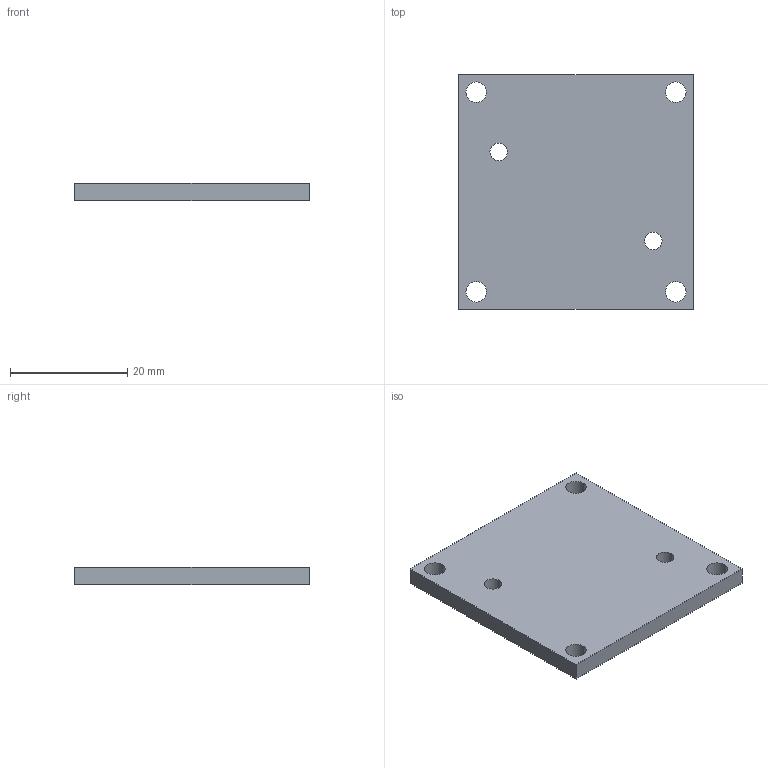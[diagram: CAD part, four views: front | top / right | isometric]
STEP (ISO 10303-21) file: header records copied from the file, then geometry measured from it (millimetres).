
FILE_DESCRIPTION (( 'STEP AP214' ), '1' );
FILE_NAME ('掙埭_掙埭假蚾啣_V1.STEP', '2026-06-19T14:44:51', ( '' ), ( '' ), 'SwSTEP 2.0', 'SolidWorks 2022', '' );
FILE_SCHEMA (( 'AUTOMOTIVE_DESIGN' ));
Length unit declared in the file: millimetre
Products named in the file (1): 泵源_泵源安装板_V1
Bounding box: 40 x 40 x 3 mm (x, y, z)
Volume: 4642.1 mm3; surface area: 3763.3 mm2
Topology: 1 solids, 1 shells, 18 faces, 48 edges, 32 vertices
Faces by surface type: cylinder 12, plane 6
Entity records: 634 total; most frequent: DIRECTION 110, CARTESIAN_POINT 99, ORIENTED_EDGE 96, EDGE_CURVE 48, AXIS2_PLACEMENT_3D 43, VERTEX_POINT 32, EDGE_LOOP 30, LINE 24
